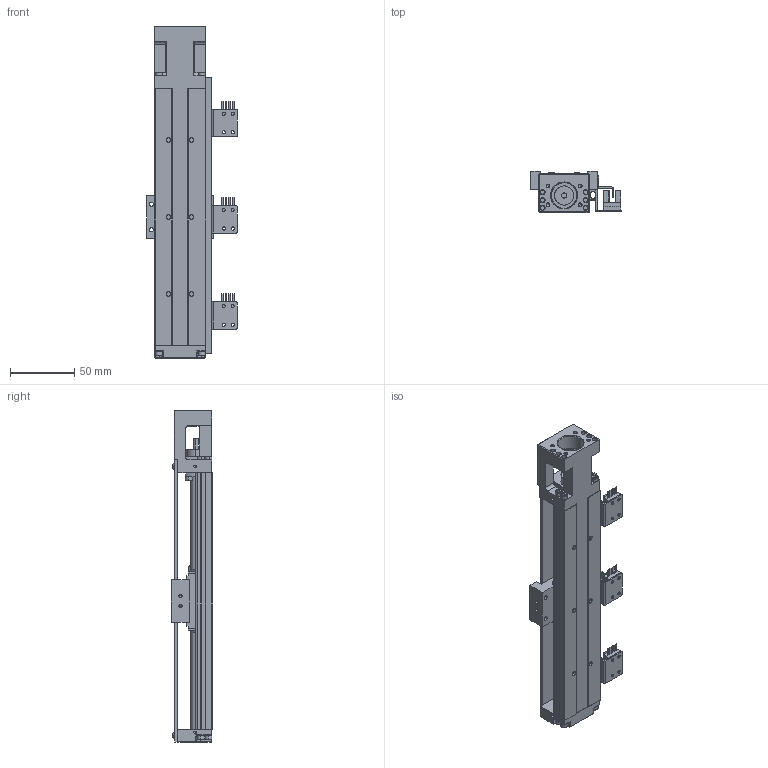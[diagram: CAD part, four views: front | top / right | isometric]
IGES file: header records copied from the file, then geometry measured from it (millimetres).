
Start section: SolidWorks IGES file using analytic representation for surfaces
Bounding box: 70.55 x 32 x 259 mm (x, y, z)
Surface area: 95941.4 mm2 (no closed solid volume)
Topology: 0 solids, 0 shells, 1325 faces, 15808 edges, 15712 vertices
Faces by surface type: bspline 746, revolution 579
